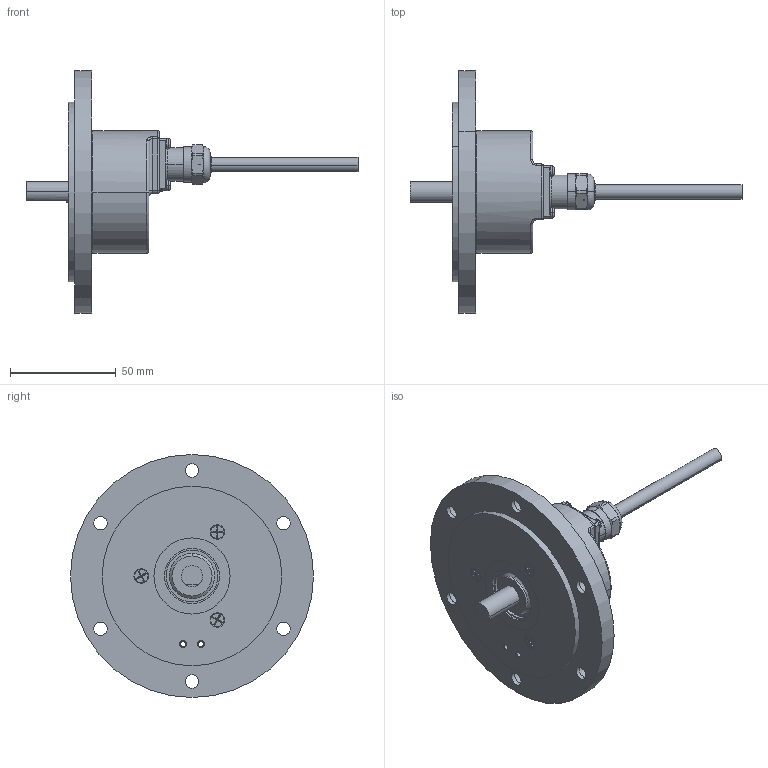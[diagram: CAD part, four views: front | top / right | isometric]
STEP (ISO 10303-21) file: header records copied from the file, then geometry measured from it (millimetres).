
FILE_DESCRIPTION (( 'STEP AP203' ), '1' );
FILE_NAME ('K58I.OXX.XXXXX.XS1E510.6XA31.XXXX.step', '2025-12-08T16:04:29', ( '' ), ( '' ), 'SwSTEP 2.0', 'SolidWorks 2021', '' );
FILE_SCHEMA (( 'CONFIG_CONTROL_DESIGN' ));
Length unit declared in the file: millimetre
Products named in the file (1): K58I.OXX.XXXXX.XS1E510.6XA31.XXXX
Bounding box: 157.19 x 115 x 115 mm (x, y, z)
Volume: 217706.8 mm3; surface area: 59162.5 mm2
Topology: 9 solids, 9 shells, 630 faces, 1545 edges, 964 vertices
Faces by surface type: cylinder 275, plane 188, cone 66, bspline 42, torus 41, sphere 18
Entity records: 20561 total; most frequent: CARTESIAN_POINT 5588, DIRECTION 3226, ORIENTED_EDGE 3066, EDGE_CURVE 1533, AXIS2_PLACEMENT_3D 1268, VERTEX_POINT 964, EDGE_LOOP 703, LINE 690
